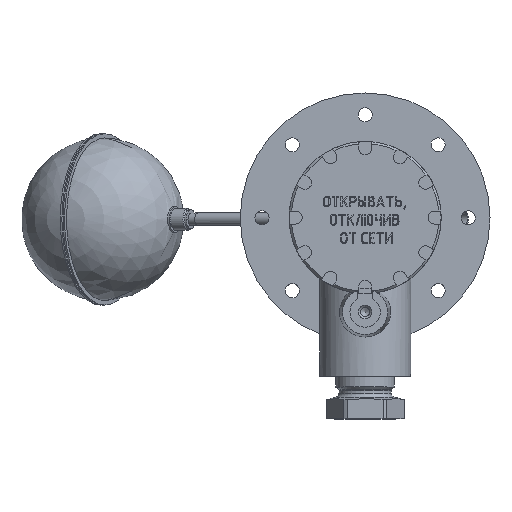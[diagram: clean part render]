
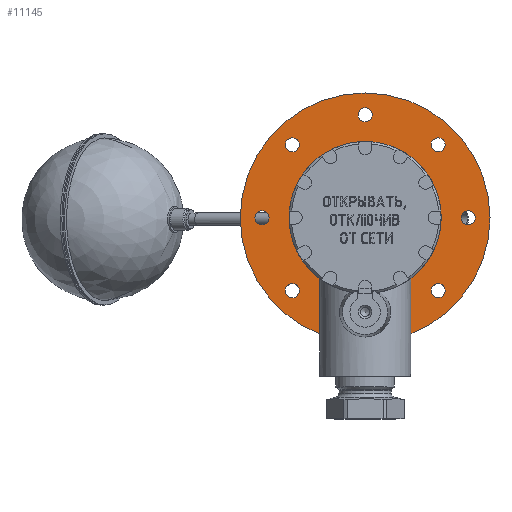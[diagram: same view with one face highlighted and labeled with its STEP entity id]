
A CAD part, top view. The second image highlights one B-rep face of the part: STEP entity #11145.
In plain terms, the highlighted planar face has unit normal (0, 0, 1).
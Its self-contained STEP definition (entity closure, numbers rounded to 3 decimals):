
#333=CIRCLE('',#11759,3.25);
#335=CIRCLE('',#11762,3.25);
#337=CIRCLE('',#11765,3.25);
#339=CIRCLE('',#11768,3.25);
#341=CIRCLE('',#11771,3.25);
#343=CIRCLE('',#11774,3.25);
#345=CIRCLE('',#11777,3.25);
#347=CIRCLE('',#11780,3.25);
#349=CIRCLE('',#11783,10.247);
#351=CIRCLE('',#11787,57.5);
#533=FACE_BOUND('',#2116,.T.);
#534=FACE_BOUND('',#2117,.T.);
#535=FACE_BOUND('',#2118,.T.);
#536=FACE_BOUND('',#2119,.T.);
#537=FACE_BOUND('',#2120,.T.);
#538=FACE_BOUND('',#2121,.T.);
#539=FACE_BOUND('',#2122,.T.);
#540=FACE_BOUND('',#2123,.T.);
#541=FACE_BOUND('',#2124,.T.);
#1374=FACE_OUTER_BOUND('',#2115,.T.);
#2115=EDGE_LOOP('',(#9931));
#2116=EDGE_LOOP('',(#9932));
#2117=EDGE_LOOP('',(#9933));
#2118=EDGE_LOOP('',(#9934));
#2119=EDGE_LOOP('',(#9935));
#2120=EDGE_LOOP('',(#9936));
#2121=EDGE_LOOP('',(#9937));
#2122=EDGE_LOOP('',(#9938));
#2123=EDGE_LOOP('',(#9939));
#2124=EDGE_LOOP('',(#9940));
#5395=VERTEX_POINT('',#19800);
#5397=VERTEX_POINT('',#19805);
#5399=VERTEX_POINT('',#19810);
#5401=VERTEX_POINT('',#19815);
#5403=VERTEX_POINT('',#19820);
#5405=VERTEX_POINT('',#19825);
#5407=VERTEX_POINT('',#19830);
#5409=VERTEX_POINT('',#19835);
#5411=VERTEX_POINT('',#19840);
#5413=VERTEX_POINT('',#19846);
#6939=EDGE_CURVE('',#5395,#5395,#333,.T.);
#6941=EDGE_CURVE('',#5397,#5397,#335,.T.);
#6943=EDGE_CURVE('',#5399,#5399,#337,.T.);
#6945=EDGE_CURVE('',#5401,#5401,#339,.T.);
#6947=EDGE_CURVE('',#5403,#5403,#341,.T.);
#6949=EDGE_CURVE('',#5405,#5405,#343,.T.);
#6951=EDGE_CURVE('',#5407,#5407,#345,.T.);
#6953=EDGE_CURVE('',#5409,#5409,#347,.T.);
#6955=EDGE_CURVE('',#5411,#5411,#349,.T.);
#6957=EDGE_CURVE('',#5413,#5413,#351,.T.);
#9931=ORIENTED_EDGE('',*,*,#6957,.F.);
#9932=ORIENTED_EDGE('',*,*,#6939,.T.);
#9933=ORIENTED_EDGE('',*,*,#6941,.T.);
#9934=ORIENTED_EDGE('',*,*,#6943,.T.);
#9935=ORIENTED_EDGE('',*,*,#6945,.T.);
#9936=ORIENTED_EDGE('',*,*,#6947,.T.);
#9937=ORIENTED_EDGE('',*,*,#6949,.T.);
#9938=ORIENTED_EDGE('',*,*,#6951,.T.);
#9939=ORIENTED_EDGE('',*,*,#6953,.T.);
#9940=ORIENTED_EDGE('',*,*,#6955,.F.);
#10489=PLANE('',#11786);
#11145=ADVANCED_FACE('',(#1374,#533,#534,#535,#536,#537,#538,#539,#540,
#541),#10489,.T.);
#11759=AXIS2_PLACEMENT_3D('',#19801,#13778,#13779);
#11762=AXIS2_PLACEMENT_3D('',#19806,#13784,#13785);
#11765=AXIS2_PLACEMENT_3D('',#19811,#13790,#13791);
#11768=AXIS2_PLACEMENT_3D('',#19816,#13796,#13797);
#11771=AXIS2_PLACEMENT_3D('',#19821,#13802,#13803);
#11774=AXIS2_PLACEMENT_3D('',#19826,#13808,#13809);
#11777=AXIS2_PLACEMENT_3D('',#19831,#13814,#13815);
#11780=AXIS2_PLACEMENT_3D('',#19836,#13820,#13821);
#11783=AXIS2_PLACEMENT_3D('',#19841,#13826,#13827);
#11786=AXIS2_PLACEMENT_3D('',#19845,#13832,#13833);
#11787=AXIS2_PLACEMENT_3D('',#19847,#13834,#13835);
#13778=DIRECTION('center_axis',(0.,0.,-1.));
#13779=DIRECTION('ref_axis',(-0.707,0.707,0.));
#13784=DIRECTION('center_axis',(0.,0.,-1.));
#13785=DIRECTION('ref_axis',(0.,1.,0.));
#13790=DIRECTION('center_axis',(0.,0.,-1.));
#13791=DIRECTION('ref_axis',(0.707,0.707,0.));
#13796=DIRECTION('center_axis',(0.,0.,-1.));
#13797=DIRECTION('ref_axis',(1.,0.,0.));
#13802=DIRECTION('center_axis',(0.,0.,-1.));
#13803=DIRECTION('ref_axis',(0.707,-0.707,0.));
#13808=DIRECTION('center_axis',(0.,0.,-1.));
#13809=DIRECTION('ref_axis',(0.,-1.,0.));
#13814=DIRECTION('center_axis',(0.,0.,-1.));
#13815=DIRECTION('ref_axis',(-0.707,-0.707,0.));
#13820=DIRECTION('center_axis',(0.,0.,-1.));
#13821=DIRECTION('ref_axis',(-1.,0.,0.));
#13826=DIRECTION('center_axis',(0.,0.,1.));
#13827=DIRECTION('ref_axis',(0.,-1.,0.));
#13832=DIRECTION('center_axis',(0.,0.,1.));
#13833=DIRECTION('ref_axis',(1.,0.,0.));
#13834=DIRECTION('center_axis',(0.,0.,-1.));
#13835=DIRECTION('ref_axis',(-1.,0.,0.));
#19800=CARTESIAN_POINT('',(-31.289,31.289,-70.5));
#19801=CARTESIAN_POINT('Origin',(-33.588,33.588,-70.5));
#19805=CARTESIAN_POINT('',(0.,44.25,-70.5));
#19806=CARTESIAN_POINT('Origin',(0.,47.5,-70.5));
#19810=CARTESIAN_POINT('',(31.289,31.289,-70.5));
#19811=CARTESIAN_POINT('Origin',(33.588,33.588,-70.5));
#19815=CARTESIAN_POINT('',(44.25,0.,-70.5));
#19816=CARTESIAN_POINT('Origin',(47.5,0.,-70.5));
#19820=CARTESIAN_POINT('',(31.289,-31.289,-70.5));
#19821=CARTESIAN_POINT('Origin',(33.588,-33.588,-70.5));
#19825=CARTESIAN_POINT('',(0.,-44.25,-70.5));
#19826=CARTESIAN_POINT('Origin',(0.,-47.5,-70.5));
#19830=CARTESIAN_POINT('',(-31.289,-31.289,-70.5));
#19831=CARTESIAN_POINT('Origin',(-33.588,-33.588,-70.5));
#19835=CARTESIAN_POINT('',(-44.25,0.,-70.5));
#19836=CARTESIAN_POINT('Origin',(-47.5,0.,-70.5));
#19840=CARTESIAN_POINT('',(0.,10.247,-70.5));
#19841=CARTESIAN_POINT('Origin',(0.,0.,
-70.5));
#19845=CARTESIAN_POINT('Origin',(-57.5,0.,-70.5));
#19846=CARTESIAN_POINT('',(-57.5,0.,-70.5));
#19847=CARTESIAN_POINT('Origin',(0.,0.,
-70.5));
